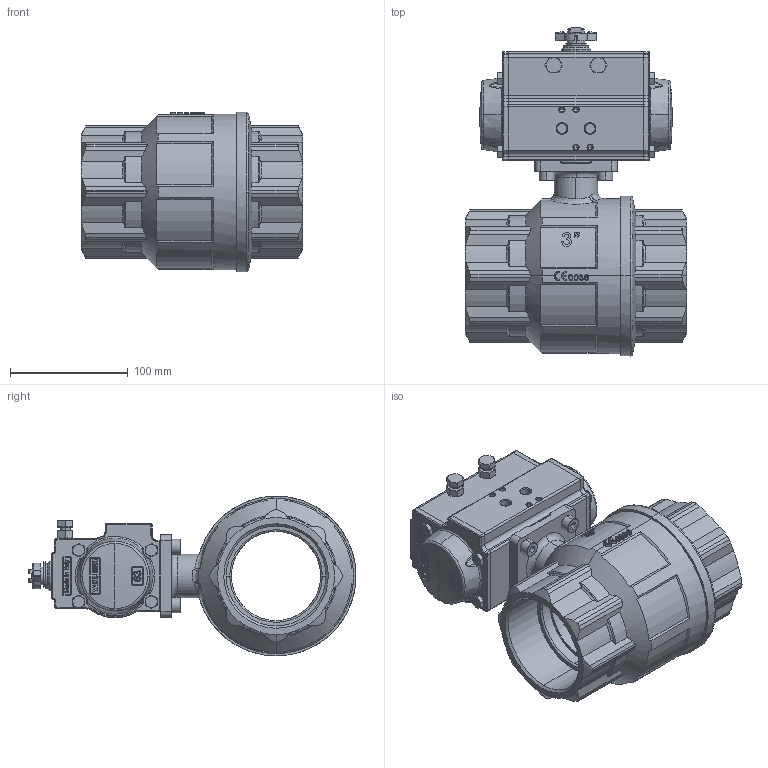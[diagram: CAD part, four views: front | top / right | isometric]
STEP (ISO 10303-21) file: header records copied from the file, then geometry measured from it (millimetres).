
FILE_DESCRIPTION (( 'STEP AP214' ), '1' );
FILE_NAME ('8P00790014.STEP', '2017-03-07T08:45:48', ( 'Bernardelli' ), ( 'Hewlett-Packard Company' ), 'SwSTEP 2.0', 'SolidWorks 2015', '' );
FILE_SCHEMA (( 'AUTOMOTIVE_DESIGN' ));
Length unit declared in the file: millimetre
Products named in the file (1): 8P00790014
Bounding box: 188 x 279 x 136 mm (x, y, z)
Volume: 2081284.1 mm3; surface area: 209716.2 mm2
Topology: 1 solids, 1 shells, 2394 faces, 6512 edges, 4160 vertices
Faces by surface type: plane 1140, bspline 578, cylinder 394, cone 237, torus 38, sphere 7
Entity records: 142730 total; most frequent: CARTESIAN_POINT 75419, ORIENTED_EDGE 12932, DIRECTION 7088, EDGE_CURVE 6466, VERTEX_POINT 4160, B_SPLINE_CURVE_WITH_KNOTS 3344, EDGE_LOOP 2516, FACE_OUTER_BOUND 2394
